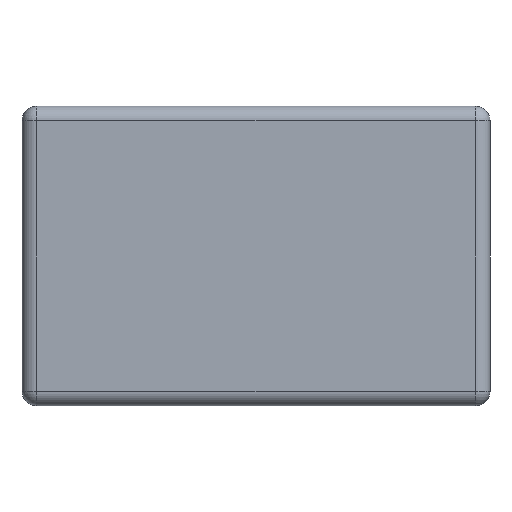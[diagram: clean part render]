
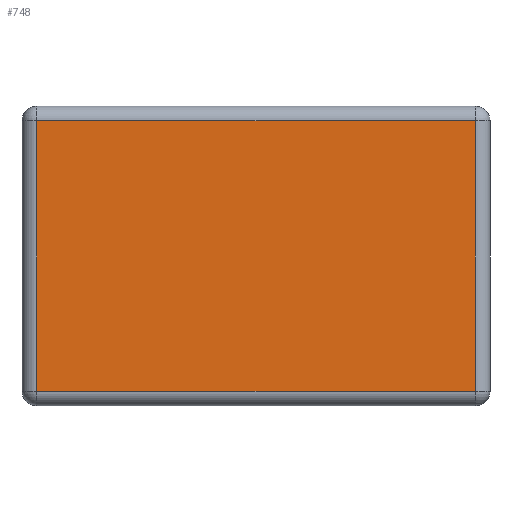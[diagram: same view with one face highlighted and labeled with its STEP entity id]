
A CAD part, front view. The second image highlights one B-rep face of the part: STEP entity #748.
In plain terms, the highlighted planar face has unit normal (0, -1, 0).
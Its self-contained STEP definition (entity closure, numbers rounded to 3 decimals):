
#128=ORIENTED_EDGE('',*,*,#322,.T.);
#129=ORIENTED_EDGE('',*,*,#323,.T.);
#130=ORIENTED_EDGE('',*,*,#324,.T.);
#131=ORIENTED_EDGE('',*,*,#325,.T.);
#322=EDGE_CURVE('',#416,#417,#490,.F.);
#323=EDGE_CURVE('',#417,#418,#491,.F.);
#324=EDGE_CURVE('',#418,#419,#492,.F.);
#325=EDGE_CURVE('',#419,#416,#493,.F.);
#416=VERTEX_POINT('',#1224);
#417=VERTEX_POINT('',#1225);
#418=VERTEX_POINT('',#1227);
#419=VERTEX_POINT('',#1229);
#490=LINE('',#1223,#558);
#491=LINE('',#1226,#559);
#492=LINE('',#1228,#560);
#493=LINE('',#1230,#561);
#558=VECTOR('',#957,1000.);
#559=VECTOR('',#958,1000.);
#560=VECTOR('',#959,1000.);
#561=VECTOR('',#960,1000.);
#586=EDGE_LOOP('',(#128,#129,#130,#131));
#652=FACE_BOUND('',#586,.T.);
#718=PLANE('',#811);
#748=ADVANCED_FACE('',(#652),#718,.F.);
#811=AXIS2_PLACEMENT_3D('',#1222,#955,#956);
#955=DIRECTION('',(0.,1.,0.));
#956=DIRECTION('',(0.,0.,1.));
#957=DIRECTION('',(1.,0.,0.));
#958=DIRECTION('',(0.,0.,1.));
#959=DIRECTION('',(-1.,0.,0.));
#960=DIRECTION('',(0.,0.,-1.));
#1222=CARTESIAN_POINT('',(-15.875,0.,9.929));
#1223=CARTESIAN_POINT('',(-15.875,0.,8.929));
#1224=CARTESIAN_POINT('',(14.875,0.,8.929));
#1225=CARTESIAN_POINT('',(-14.875,0.,8.929));
#1226=CARTESIAN_POINT('',(-14.875,0.,9.929));
#1227=CARTESIAN_POINT('',(-14.875,0.,-9.391));
#1228=CARTESIAN_POINT('',(-15.875,0.,-9.391));
#1229=CARTESIAN_POINT('',(14.875,0.,-9.391));
#1230=CARTESIAN_POINT('',(14.875,0.,9.929));
